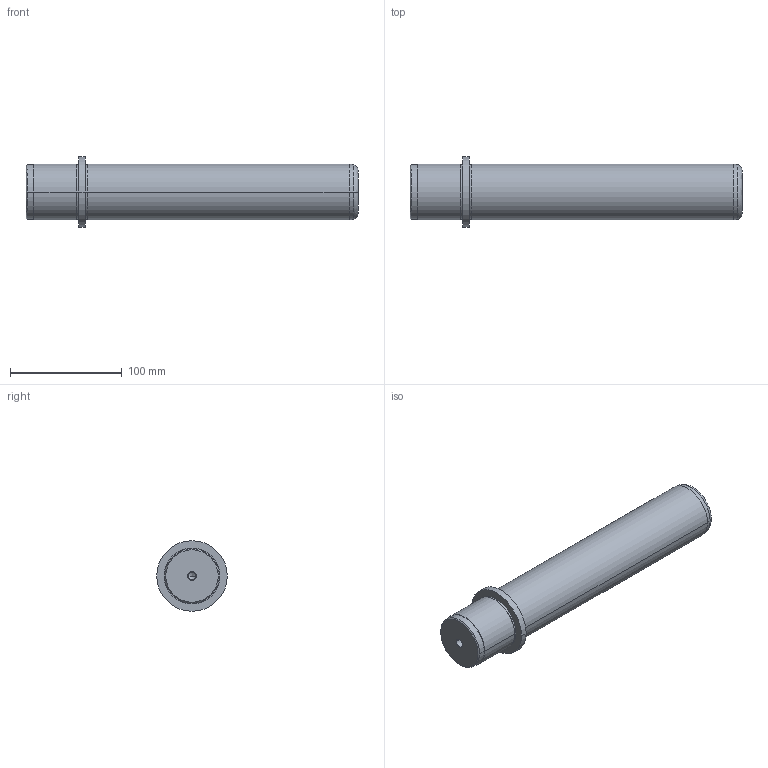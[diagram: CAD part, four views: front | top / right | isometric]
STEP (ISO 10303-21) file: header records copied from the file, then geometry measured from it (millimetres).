
FILE_DESCRIPTION( ( 'STEP AP203' ), '1' );
FILE_NAME( 'D:/Delta 3 D/D00/D00 - 50x250x47.step', '2003-01-02T07:22:59', ( ' ' ), ( ' ' ), 'XStep 1.0', ' ', ' ' );
FILE_SCHEMA( ( 'CONFIG_CONTROL_DESIGN' ) );
Length unit declared in the file: metre
Products named in the file (1): 1
Bounding box: 297 x 63 x 63 mm (x, y, z)
Volume: 585826.6 mm3; surface area: 54066.2 mm2
Topology: 1 solids, 1 shells, 39 faces, 78 edges, 48 vertices
Faces by surface type: revolution 28, bspline 11
Entity records: 1137 total; most frequent: CARTESIAN_POINT 277, DIRECTION 154, ORIENTED_EDGE 152, EDGE_CURVE 76, AXIS2_PLACEMENT_3D 49, EDGE_LOOP 48, VERTEX_POINT 48, CIRCLE 48
